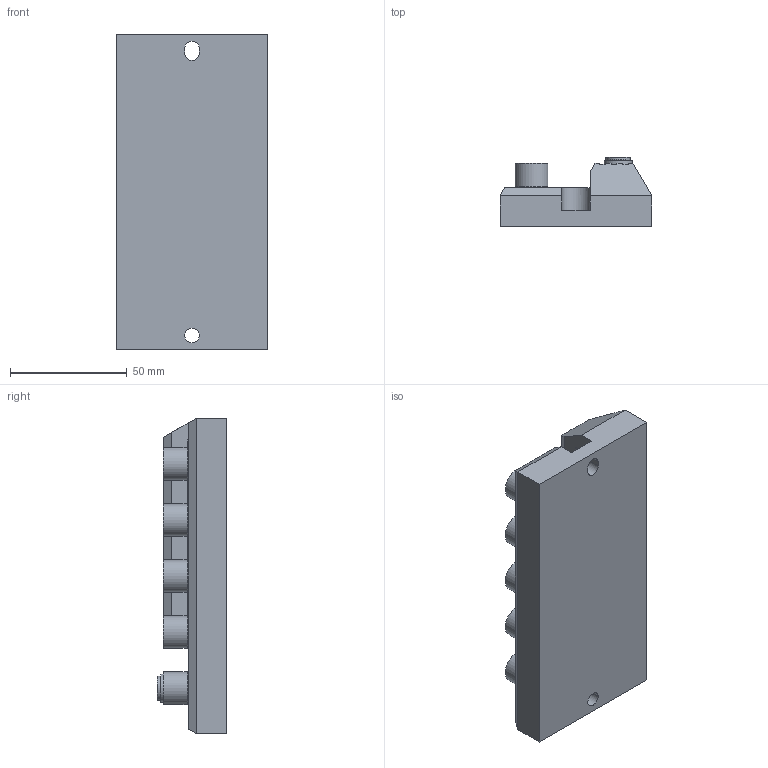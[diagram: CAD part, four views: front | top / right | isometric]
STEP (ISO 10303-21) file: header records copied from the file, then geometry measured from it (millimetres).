
FILE_DESCRIPTION(('TFLEX Exchange Step'),'2;1');
FILE_NAME('TZCA02112A_NITE-T1XS5-8103.stp', '2024-04-05T09:39:24+02:00',('User'),('Unknown organisation'),'TFLEX Exchange 2023.2','T-FLEX CAD','Unknown authorisation');
FILE_SCHEMA( ('AUTOMOTIVE_DESIGN { 1 0 10303 214 1 1 1 1 }') );
Length unit declared in the file: millimetre
Products named in the file (3): 3DP_ABSNULL; 0; TZCA02112A_NITE-T1XS5-8103
Assembly tree (2 placements, depth 3):
  TZCA02112A_NITE-T1XS5-8103
    0
      3DP_ABSNULL
Bounding box: 65 x 29.8 x 135 mm (x, y, z)
Volume: 164176.5 mm3; surface area: 33335.2 mm2
Topology: 1 solids, 1 shells, 1066 faces, 2802 edges, 1821 vertices
Faces by surface type: plane 470, bspline 284, cylinder 192, torus 87, cone 19, sphere 9, extrusion 5
Full cylindrical faces by diameter (mm): 1 x4, 4 x1, 4.3 x1, 8 x1, 8.2 x5, 8.4 x5, 9.6 x1, 10.4 x1, 11 x5, 12 x1, 12.2 x5, 12.35 x5, 14 x5
Entity records: 38019 total; most frequent: CARTESIAN_POINT 12963, ORIENTED_EDGE 5586, DIRECTION 4410, EDGE_CURVE 2793, VERTEX_POINT 1820, VECTOR 1590, LINE 1585, AXIS2_PLACEMENT_3D 1410
